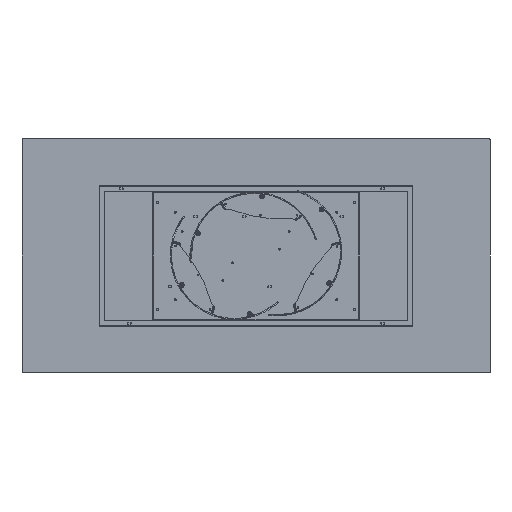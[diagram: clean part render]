
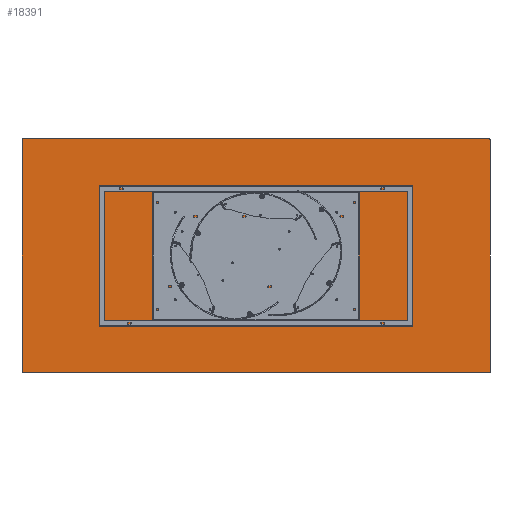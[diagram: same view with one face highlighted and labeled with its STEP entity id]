
A CAD part, front view. The second image highlights one B-rep face of the part: STEP entity #18391.
In plain terms, the highlighted planar face has unit normal (0, -1, 0).
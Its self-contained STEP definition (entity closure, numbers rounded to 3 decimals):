
#147 = VERTEX_POINT ( 'NONE', #9159 ) ;
#797 = CARTESIAN_POINT ( 'NONE',  ( -1195., 0., -595. ) ) ;
#1228 = AXIS2_PLACEMENT_3D ( 'NONE', #17392, #14153, #7638 ) ;
#1588 = CARTESIAN_POINT ( 'NONE',  ( -1200., 0., 600. ) ) ;
#1709 = LINE ( 'NONE', #14940, #13552 ) ;
#2075 = ORIENTED_EDGE ( 'NONE', *, *, #6886, .T. ) ;
#2253 = CIRCLE ( 'NONE', #1228, 5. ) ;
#2701 = CARTESIAN_POINT ( 'NONE',  ( 1200., 0., -595. ) ) ;
#2958 = VERTEX_POINT ( 'NONE', #10219 ) ;
#3160 = ORIENTED_EDGE ( 'NONE', *, *, #4535, .F. ) ;
#3250 = VECTOR ( 'NONE', #18502, 1000. ) ;
#3347 = ORIENTED_EDGE ( 'NONE', *, *, #15658, .F. ) ;
#3443 = DIRECTION ( 'NONE',  ( -1., 0., 0. ) ) ;
#3557 = CARTESIAN_POINT ( 'NONE',  ( -1200., 0., -600. ) ) ;
#4519 = DIRECTION ( 'NONE',  ( 0., 0., 1. ) ) ;
#4535 = EDGE_CURVE ( 'NONE', #18409, #16160, #18183, .T. ) ;
#4941 = CARTESIAN_POINT ( 'NONE',  ( -1195., 0., 600. ) ) ;
#5356 = EDGE_CURVE ( 'NONE', #2958, #14091, #2253, .T. ) ;
#5434 = AXIS2_PLACEMENT_3D ( 'NONE', #797, #17270, #13704 ) ;
#5559 = CARTESIAN_POINT ( 'NONE',  ( -1200., 0., 595. ) ) ;
#5693 = EDGE_CURVE ( 'NONE', #147, #16160, #17857, .T. ) ;
#5770 = VERTEX_POINT ( 'NONE', #6964 ) ;
#5896 = EDGE_CURVE ( 'NONE', #147, #14091, #7612, .T. ) ;
#5983 = CARTESIAN_POINT ( 'NONE',  ( -1195., 0., 595. ) ) ;
#6091 = DIRECTION ( 'NONE',  ( 0., 0., 1. ) ) ;
#6100 = VECTOR ( 'NONE', #14234, 1000. ) ;
#6399 = CARTESIAN_POINT ( 'NONE',  ( 1195., 0., 600. ) ) ;
#6457 = PLANE ( 'NONE',  #9899 ) ;
#6655 = AXIS2_PLACEMENT_3D ( 'NONE', #5983, #10971, #6091 ) ;
#6886 = EDGE_CURVE ( 'NONE', #5770, #9067, #17555, .T. ) ;
#6964 = CARTESIAN_POINT ( 'NONE',  ( -1200., 0., -595. ) ) ;
#7091 = ORIENTED_EDGE ( 'NONE', *, *, #5896, .F. ) ;
#7612 = LINE ( 'NONE', #17367, #6100 ) ;
#7638 = DIRECTION ( 'NONE',  ( 0., 0., 1. ) ) ;
#8323 = EDGE_CURVE ( 'NONE', #18409, #12337, #8721, .T. ) ;
#8721 = CIRCLE ( 'NONE', #6655, 5. ) ;
#9067 = VERTEX_POINT ( 'NONE', #16220 ) ;
#9159 = CARTESIAN_POINT ( 'NONE',  ( 1200., 0., 595. ) ) ;
#9336 = EDGE_LOOP ( 'NONE', ( #7091, #15000, #3160, #21335, #3347, #2075, #10608, #20650 ) ) ;
#9815 = CARTESIAN_POINT ( 'NONE',  ( 0., 0., 0. ) ) ;
#9899 = AXIS2_PLACEMENT_3D ( 'NONE', #9815, #14602, #4519 ) ;
#10219 = CARTESIAN_POINT ( 'NONE',  ( 1195., 0., -600. ) ) ;
#10608 = ORIENTED_EDGE ( 'NONE', *, *, #11521, .F. ) ;
#10971 = DIRECTION ( 'NONE',  ( 0., -1., 0. ) ) ;
#11521 = EDGE_CURVE ( 'NONE', #2958, #9067, #1709, .T. ) ;
#11946 = DIRECTION ( 'NONE',  ( 0., 0., 1. ) ) ;
#12337 = VERTEX_POINT ( 'NONE', #5559 ) ;
#13552 = VECTOR ( 'NONE', #3443, 1000. ) ;
#13704 = DIRECTION ( 'NONE',  ( 0., 0., 1. ) ) ;
#13801 = DIRECTION ( 'NONE',  ( 0., -1., 0. ) ) ;
#14091 = VERTEX_POINT ( 'NONE', #2701 ) ;
#14153 = DIRECTION ( 'NONE',  ( 0., -1., 0. ) ) ;
#14188 = DIRECTION ( 'NONE',  ( 0., 0., 1. ) ) ;
#14234 = DIRECTION ( 'NONE',  ( 0., 0., -1. ) ) ;
#14602 = DIRECTION ( 'NONE',  ( 0., 1., 0. ) ) ;
#14940 = CARTESIAN_POINT ( 'NONE',  ( -1200., 0., -600. ) ) ;
#15000 = ORIENTED_EDGE ( 'NONE', *, *, #5693, .T. ) ;
#15306 = CARTESIAN_POINT ( 'NONE',  ( 1195., 0., 595. ) ) ;
#15658 = EDGE_CURVE ( 'NONE', #5770, #12337, #16679, .T. ) ;
#16160 = VERTEX_POINT ( 'NONE', #6399 ) ;
#16220 = CARTESIAN_POINT ( 'NONE',  ( -1195., 0., -600. ) ) ;
#16679 = LINE ( 'NONE', #3557, #18863 ) ;
#17270 = DIRECTION ( 'NONE',  ( 0., -1., 0. ) ) ;
#17367 = CARTESIAN_POINT ( 'NONE',  ( 1200., 0., -600. ) ) ;
#17392 = CARTESIAN_POINT ( 'NONE',  ( 1195., 0., -595. ) ) ;
#17555 = CIRCLE ( 'NONE', #5434, 5. ) ;
#17857 = CIRCLE ( 'NONE', #19923, 5. ) ;
#18183 = LINE ( 'NONE', #1588, #3250 ) ;
#18391 = ADVANCED_FACE ( 'NONE', ( #19571 ), #6457, .F. ) ;
#18409 = VERTEX_POINT ( 'NONE', #4941 ) ;
#18502 = DIRECTION ( 'NONE',  ( 1., 0., 0. ) ) ;
#18863 = VECTOR ( 'NONE', #14188, 1000. ) ;
#19571 = FACE_OUTER_BOUND ( 'NONE', #9336, .T. ) ;
#19923 = AXIS2_PLACEMENT_3D ( 'NONE', #15306, #13801, #11946 ) ;
#20650 = ORIENTED_EDGE ( 'NONE', *, *, #5356, .T. ) ;
#21335 = ORIENTED_EDGE ( 'NONE', *, *, #8323, .T. ) ;
